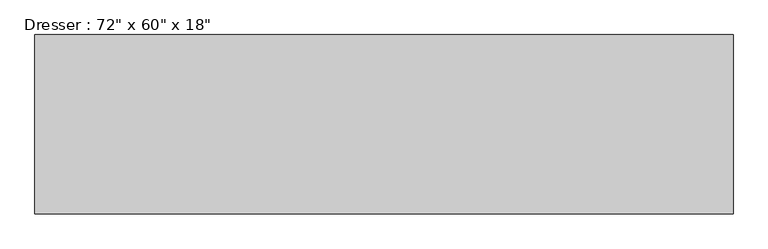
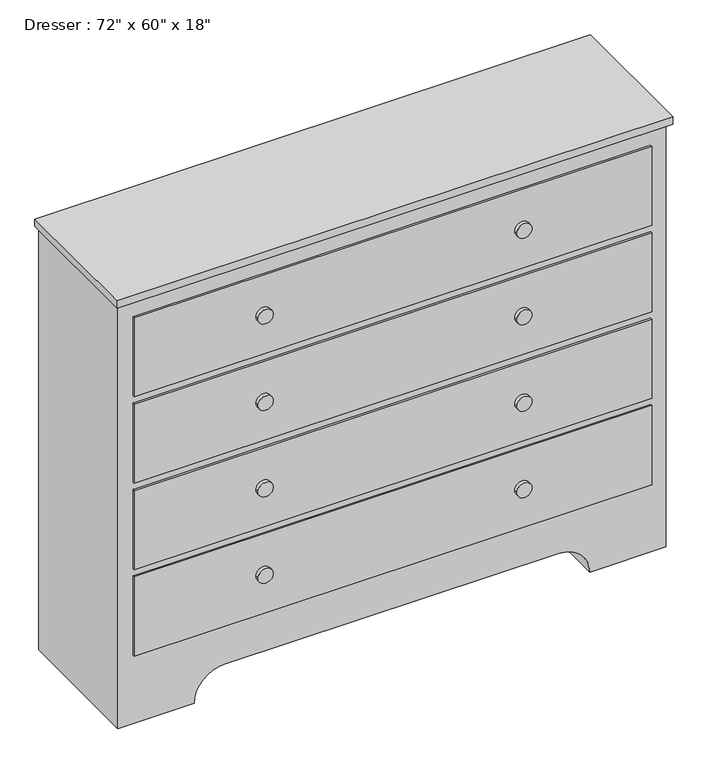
"""IFC4 building model written with IfcOpenShell, lengths in millimetres: furniture geometry."""

from ifc_helpers import new_model, si_unit, point, frame, frame_2d, origin, place, context, project, spatial, polyline, circle_curve, trimmed, segment, composite_curve, outline, extrude, source, transform, mapped, element, save


def furniture_7c473f12(model_context):
    return source(origin(), model_context, "Body", "SweptSolid", [
        extrude(outline(polyline([(657.9067402, -134.5629541), (657.9067402, -610.8129541), (-1196.2932598, -610.8129541), (-1196.2932598, -134.5629541), (657.9067402, -134.5629541)])), frame((0.0, 0.0, 1498.6), z_axis=(0.0, 0.0, 1.0), x_axis=(1.0, 0.0, 0.0)), (0.0, 0.0, 1.0), 25.4),
        extrude(outline(composite_curve([segment(polyline([(0.0, 645.2067402), (1498.6, 645.2067402), (1498.6, -1183.5932598), (0.0, -1183.5932598), (0.0, -929.5932598)]), True, "CONTINUOUS"), segment(trimmed(circle_curve(frame_2d((0.0, -827.9932598)), 101.6), [point((0.0, -929.5932598))], [point((101.6, -827.9932598))], True, "CARTESIAN"), True, "CONTINUOUS"), segment(polyline([(101.6, -827.9932598), (101.6, 289.6067402)]), True, "CONTINUOUS"), segment(trimmed(circle_curve(frame_2d((0.0, 289.6067402)), 101.6), [point((101.6, 289.6067402))], [point((0.0, 391.2067402))], True, "CARTESIAN"), True, "CONTINUOUS"), segment(polyline([(0.0, 391.2067402), (0.0, 645.2067402)]), True, "CONTINUOUS")], self_intersect=False)), frame((0.0, -591.7629541, 0.0), z_axis=(0.0, 1.0, 0.0), x_axis=(0.0, 0.0, 1.0)), (0.0, 0.0, 1.0), 457.2),
        extrude(outline(composite_curve([segment(trimmed(circle_curve(frame_2d((1295.4, 162.6067402)), 25.4), [point((1295.4, 137.2067402))], [point((1295.4, 188.0067402))], False, "CARTESIAN"), True, "CONTINUOUS"), segment(trimmed(circle_curve(frame_2d((1295.4, 162.6067402)), 25.4), [point((1295.4, 188.0067402))], [point((1295.4, 137.2067402))], False, "CARTESIAN"), True, "CONTINUOUS")], self_intersect=False)), frame((0.0, -610.8129541, 0.0), z_axis=(0.0, 1.0, 0.0), x_axis=(0.0, 0.0, 1.0)), (0.0, 0.0, 1.0), 12.7),
        extrude(outline(composite_curve([segment(trimmed(circle_curve(frame_2d((990.6, 162.6067402)), 25.4), [point((990.6, 137.2067402))], [point((990.6, 188.0067402))], False, "CARTESIAN"), True, "CONTINUOUS"), segment(trimmed(circle_curve(frame_2d((990.6, 162.6067402)), 25.4), [point((990.6, 188.0067402))], [point((990.6, 137.2067402))], False, "CARTESIAN"), True, "CONTINUOUS")], self_intersect=False)), frame((0.0, -610.8129541, 0.0), z_axis=(0.0, 1.0, 0.0), x_axis=(0.0, 0.0, 1.0)), (0.0, 0.0, 1.0), 12.7),
        extrude(outline(composite_curve([segment(trimmed(circle_curve(frame_2d((685.8, 162.6067402)), 25.4), [point((685.8, 137.2067402))], [point((685.8, 188.0067402))], False, "CARTESIAN"), True, "CONTINUOUS"), segment(trimmed(circle_curve(frame_2d((685.8, 162.6067402)), 25.4), [point((685.8, 188.0067402))], [point((685.8, 137.2067402))], False, "CARTESIAN"), True, "CONTINUOUS")], self_intersect=False)), frame((0.0, -610.8129541, 0.0), z_axis=(0.0, 1.0, 0.0), x_axis=(0.0, 0.0, 1.0)), (0.0, 0.0, 1.0), 12.7),
        extrude(outline(composite_curve([segment(trimmed(circle_curve(frame_2d((381.0, 162.6067402)), 25.4), [point((381.0, 137.2067402))], [point((381.0, 188.0067402))], False, "CARTESIAN"), True, "CONTINUOUS"), segment(trimmed(circle_curve(frame_2d((381.0, 162.6067402)), 25.4), [point((381.0, 188.0067402))], [point((381.0, 137.2067402))], False, "CARTESIAN"), True, "CONTINUOUS")], self_intersect=False)), frame((0.0, -610.8129541, 0.0), z_axis=(0.0, 1.0, 0.0), x_axis=(0.0, 0.0, 1.0)), (0.0, 0.0, 1.0), 12.7),
        extrude(outline(composite_curve([segment(trimmed(circle_curve(frame_2d((381.0, -700.9932598)), 25.4), [point((381.0, -726.3932598))], [point((381.0, -675.5932598))], False, "CARTESIAN"), True, "CONTINUOUS"), segment(trimmed(circle_curve(frame_2d((381.0, -700.9932598)), 25.4), [point((381.0, -675.5932598))], [point((381.0, -726.3932598))], False, "CARTESIAN"), True, "CONTINUOUS")], self_intersect=False)), frame((0.0, -610.8129541, 0.0), z_axis=(0.0, 1.0, 0.0), x_axis=(0.0, 0.0, 1.0)), (0.0, 0.0, 1.0), 12.7),
        extrude(outline(composite_curve([segment(trimmed(circle_curve(frame_2d((685.8, -700.9932598)), 25.4), [point((685.8, -726.3932598))], [point((685.8, -675.5932598))], False, "CARTESIAN"), True, "CONTINUOUS"), segment(trimmed(circle_curve(frame_2d((685.8, -700.9932598)), 25.4), [point((685.8, -675.5932598))], [point((685.8, -726.3932598))], False, "CARTESIAN"), True, "CONTINUOUS")], self_intersect=False)), frame((0.0, -610.8129541, 0.0), z_axis=(0.0, 1.0, 0.0), x_axis=(0.0, 0.0, 1.0)), (0.0, 0.0, 1.0), 12.7),
        extrude(outline(composite_curve([segment(trimmed(circle_curve(frame_2d((990.6, -700.9932598)), 25.4), [point((990.6, -726.3932598))], [point((990.6, -675.5932598))], False, "CARTESIAN"), True, "CONTINUOUS"), segment(trimmed(circle_curve(frame_2d((990.6, -700.9932598)), 25.4), [point((990.6, -675.5932598))], [point((990.6, -726.3932598))], False, "CARTESIAN"), True, "CONTINUOUS")], self_intersect=False)), frame((0.0, -610.8129541, 0.0), z_axis=(0.0, 1.0, 0.0), x_axis=(0.0, 0.0, 1.0)), (0.0, 0.0, 1.0), 12.7),
        extrude(outline(composite_curve([segment(trimmed(circle_curve(frame_2d((1295.4, -700.9932598)), 25.4), [point((1295.4, -726.3932598))], [point((1295.4, -675.5932598))], False, "CARTESIAN"), True, "CONTINUOUS"), segment(trimmed(circle_curve(frame_2d((1295.4, -700.9932598)), 25.4), [point((1295.4, -675.5932598))], [point((1295.4, -726.3932598))], False, "CARTESIAN"), True, "CONTINUOUS")], self_intersect=False)), frame((0.0, -610.8129541, 0.0), z_axis=(0.0, 1.0, 0.0), x_axis=(0.0, 0.0, 1.0)), (0.0, 0.0, 1.0), 12.7),
        extrude(outline(polyline([(594.4067402, -598.1129541), (-1132.7932598, -598.1129541), (-1132.7932598, -591.7629541), (594.4067402, -591.7629541), (594.4067402, -598.1129541)])), frame((0.0, 0.0, 1155.7), z_axis=(0.0, 0.0, 1.0), x_axis=(1.0, 0.0, 0.0)), (0.0, 0.0, 1.0), 279.4),
        extrude(outline(polyline([(594.4067402, -598.1129541), (-1132.7932598, -598.1129541), (-1132.7932598, -591.7629541), (594.4067402, -591.7629541), (594.4067402, -598.1129541)])), frame((0.0, 0.0, 850.9), z_axis=(0.0, 0.0, 1.0), x_axis=(1.0, 0.0, 0.0)), (0.0, 0.0, 1.0), 279.4),
        extrude(outline(polyline([(594.4067402, -598.1129541), (-1132.7932598, -598.1129541), (-1132.7932598, -591.7629541), (594.4067402, -591.7629541), (594.4067402, -598.1129541)])), frame((0.0, 0.0, 546.1), z_axis=(0.0, 0.0, 1.0), x_axis=(1.0, 0.0, 0.0)), (0.0, 0.0, 1.0), 279.4),
        extrude(outline(polyline([(594.4067402, -598.1129541), (-1132.7932598, -598.1129541), (-1132.7932598, -591.7629541), (594.4067402, -591.7629541), (594.4067402, -598.1129541)])), frame((0.0, 0.0, 241.3), z_axis=(0.0, 0.0, 1.0), x_axis=(1.0, 0.0, 0.0)), (0.0, 0.0, 1.0), 279.4),
    ])


if __name__ == "__main__":
    model = new_model("IFC4")
    model_context = context("Model", 3, world=origin())
    ifc_project = project(units=[si_unit("LENGTHUNIT", "METRE", prefix="MILLI")], contexts=[model_context])
    site = spatial("IfcSite", under=ifc_project)
    building = spatial("IfcBuilding", under=site)
    placement = place(None, origin())
    furniture_shape = furniture_7c473f12(model_context)
    element("IfcFurniture", 1, ObjectType="Dresser : 72\" x 60\" x 18\"", at=placement, inside=building, context=model_context, shape_type="MappedRepresentation", body=[
        mapped(furniture_shape, transform((0.0, 0.0, 0.0), x_axis=(1.0, 0.0, 0.0), y_axis=(0.0, 1.0, 0.0), z_axis=(0.0, 0.0, 1.0))),
    ])
    save(model, "model.ifc")
